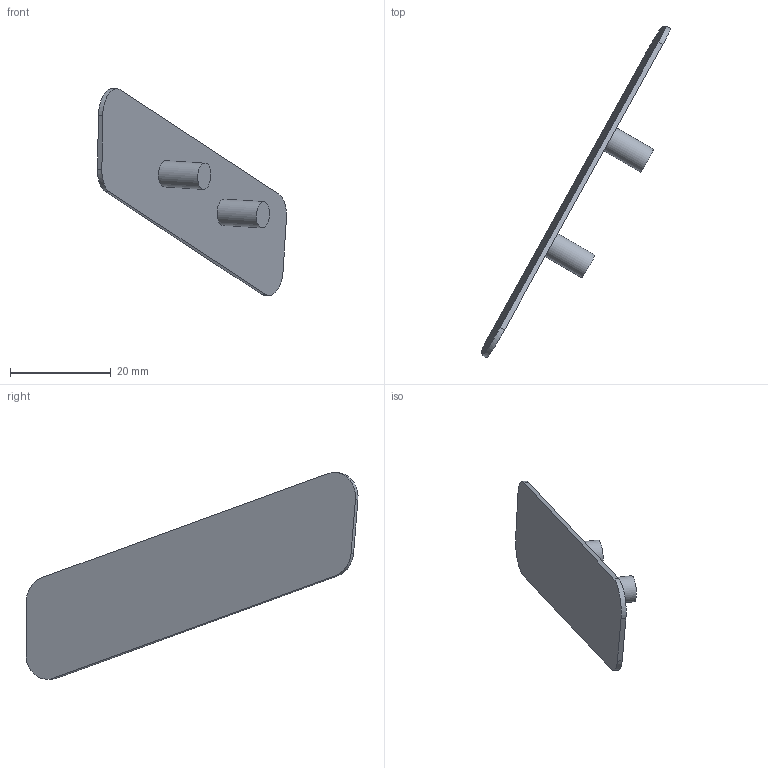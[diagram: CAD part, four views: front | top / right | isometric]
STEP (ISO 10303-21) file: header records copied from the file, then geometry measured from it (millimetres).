
FILE_DESCRIPTION(('STEP AP242 Edition 2','STEP AP242 Edition 2''CAx-IF Rec.Pracs.---Representation and Presentation of Product Manufacturing Information (PMI)---4.0---2014-10-13','STEP AP242 Edition 2''CAx-IF Rec.Pracs.---Representation and Presentation of Product Manufacturing Information (PMI)---4.0---2014-10-13''CAx-IF Rec.Pracs.---3D Tessellated Geometry---0.4---2014-09-14','STEP AP242 Edition 2''CAx-IF Rec.Pracs.---Representation and Presentation of Product Manufacturing Information (PMI)---4.0---2014-10-13''CAx-IF Rec.Pracs.---3D Tessellated Geometry---0.4---2014-09-14''2;1','STEP AP242 Edition 2''CAx-IF Rec.Pracs.---Representation and Presentation of Product Manufacturing Information (PMI)---4.0---2014-10-13''CAx-IF Rec.Pracs.---3D Tessellated Geometry---0.4---2014-09-14''2;1''CAx-IF Rec.Pracs.---User Defined Attributes---1.5---2016-08-15'),'2;1');
FILE_NAME('/vol/tmp/translate-5928582753522486027/Part Studio Body Front - Part Front Left Air Intake Side Front - Black.step','2026-05-02T13:02:34',(''),(''),'ST-DEVELOPER v20','ONSHAPE BY PTC INC, 1.214',' ');
FILE_SCHEMA(('AP242_MANAGED_MODEL_BASED_3D_ENGINEERING_MIM_LF { 1 0 10303 442 3 1 4 }'));
Length unit declared in the file: metre
Products named in the file (1): Part Front Left Air Intake Side Front - Black
Bounding box: 37.43 x 65.75 x 41.01 mm (x, y, z)
Volume: 1914.2 mm3; surface area: 3545.2 mm2
Topology: 1 solids, 1 shells, 14 faces, 30 edges, 20 vertices
Faces by surface type: plane 8, cylinder 6
Full cylindrical faces by diameter (mm): 5.2 x2
Entity records: 406 total; most frequent: DIRECTION 70, CARTESIAN_POINT 63, ORIENTED_EDGE 56, EDGE_CURVE 28, AXIS2_PLACEMENT_3D 27, VERTEX_POINT 20, EDGE_LOOP 18, FACE_BOUND 18
